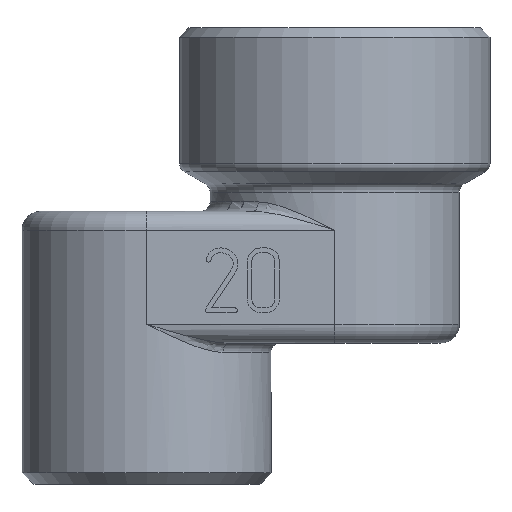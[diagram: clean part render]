
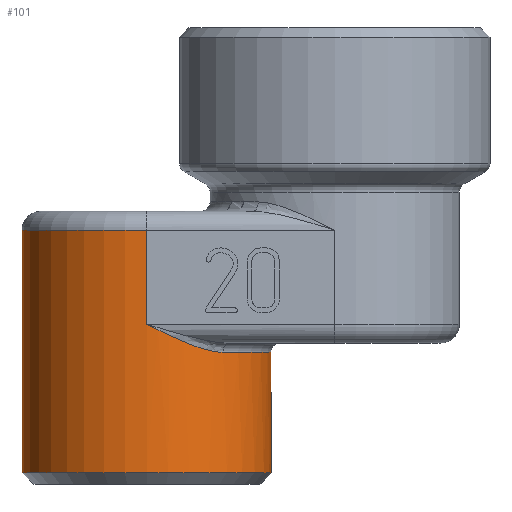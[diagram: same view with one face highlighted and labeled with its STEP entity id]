
A CAD part, left-side view. The second image highlights one B-rep face of the part: STEP entity #101.
In plain terms, the highlighted cylindrical face has radius 13.25 mm (diameter 26.5 mm), a full revolution.
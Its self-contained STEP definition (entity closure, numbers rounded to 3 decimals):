
#101=ADVANCED_FACE('',(#531,#533),#535,.T.);
#531=FACE_BOUND('',#532,.T.);
#532=EDGE_LOOP('',(#1972,#1973,#1974,#1975,#1976,#1977));
#533=FACE_OUTER_BOUND('',#534,.T.);
#534=EDGE_LOOP('',(#1978));
#535=CYLINDRICAL_SURFACE('',#536,13.25);
#536=AXIS2_PLACEMENT_3D('',#537,#538,#539);
#537=CARTESIAN_POINT('',(0.,0.,0.));
#538=DIRECTION('',(0.,0.,1.));
#539=DIRECTION('',(-1.,0.,0.));
#1972=ORIENTED_EDGE('',*,*,#2453,.F.);
#1973=ORIENTED_EDGE('',*,*,#2454,.F.);
#1974=ORIENTED_EDGE('',*,*,#2455,.F.);
#1975=ORIENTED_EDGE('',*,*,#2456,.F.);
#1976=ORIENTED_EDGE('',*,*,#2297,.T.);
#1977=ORIENTED_EDGE('',*,*,#2457,.F.);
#1978=ORIENTED_EDGE('',*,*,#2458,.T.);
#2297=EDGE_CURVE('',#2606,#2603,#2607,.T.);
#2453=EDGE_CURVE('',#2862,#2863,#2864,.T.);
#2454=EDGE_CURVE('',#2865,#2862,#2866,.T.);
#2455=EDGE_CURVE('',#2867,#2865,#2868,.T.);
#2456=EDGE_CURVE('',#2606,#2867,#2869,.F.);
#2457=EDGE_CURVE('',#2863,#2603,#2870,.T.);
#2458=EDGE_CURVE('',#2871,#2871,#2872,.T.);
#2603=VERTEX_POINT('',#3116);
#2606=VERTEX_POINT('',#3121);
#2607=LINE('',#3122,#3123);
#2862=VERTEX_POINT('',#3703);
#2863=VERTEX_POINT('',#3704);
#2864=LINE('',#3705,#3706);
#2865=VERTEX_POINT('',#3708);
#2866=B_SPLINE_CURVE_WITH_KNOTS('',3,
(#3709,#3710,#3711,#3712,#3713,#3714,#3715,#3716,#3717,#3718,#3719,#3720,#3721,#3722,
#3723,#3724),
.UNSPECIFIED.,.F.,.F.,
(4,1,1,1,1,1,1,1,1,1,1,1,1,4),
(0.,0.068,0.127,0.178,0.235,0.297,
0.364,0.449,0.544,0.645,0.736,
0.827,0.915,1.),
.UNSPECIFIED.);
#2867=VERTEX_POINT('',#3725);
#2868=CIRCLE('',#3726,13.25);
#2869=B_SPLINE_CURVE_WITH_KNOTS('',3,
(#3730,#3731,#3732,#3733,#3734,#3735,#3736,#3737,#3738,#3739,#3740,#3741,#3742,#3743,
#3744,#3745),
.UNSPECIFIED.,.F.,.F.,
(4,1,1,1,1,1,1,1,1,1,1,1,1,4),
(0.,0.068,0.127,0.178,0.235,0.297,
0.364,0.449,0.544,0.645,0.736,
0.827,0.915,1.),
.UNSPECIFIED.);
#2870=CIRCLE('',#3746,13.25);
#2871=VERTEX_POINT('',#3750);
#2872=CIRCLE('',#3751,13.25);
#3116=CARTESIAN_POINT('',(-13.25,0.,27.));
#3121=CARTESIAN_POINT('',(-13.25,0.,17.));
#3122=CARTESIAN_POINT('',(-13.25,0.,17.));
#3123=VECTOR('',#3124,1.);
#3124=DIRECTION('',(0.,0.,1.));
#3703=CARTESIAN_POINT('',(13.25,0.,17.));
#3704=CARTESIAN_POINT('',(13.25,0.,27.));
#3705=CARTESIAN_POINT('',(13.25,0.,17.));
#3706=VECTOR('',#3707,1.);
#3707=DIRECTION('',(0.,0.,1.));
#3708=CARTESIAN_POINT('',(10.461,-8.133,14.));
#3709=CARTESIAN_POINT('',(10.461,-8.133,14.));
#3710=CARTESIAN_POINT('',(10.593,-7.962,13.999));
#3711=CARTESIAN_POINT('',(10.832,-7.638,14.019));
#3712=CARTESIAN_POINT('',(11.143,-7.175,14.086));
#3713=CARTESIAN_POINT('',(11.414,-6.736,14.176));
#3714=CARTESIAN_POINT('',(11.669,-6.285,14.29));
#3715=CARTESIAN_POINT('',(11.925,-5.786,14.44));
#3716=CARTESIAN_POINT('',(12.19,-5.208,14.637));
#3717=CARTESIAN_POINT('',(12.457,-4.536,14.892));
#3718=CARTESIAN_POINT('',(12.713,-3.766,15.212));
#3719=CARTESIAN_POINT('',(12.92,-2.975,15.565));
#3720=CARTESIAN_POINT('',(13.075,-2.192,15.931));
#3721=CARTESIAN_POINT('',(13.178,-1.445,16.29));
#3722=CARTESIAN_POINT('',(13.237,-0.714,16.648));
#3723=CARTESIAN_POINT('',(13.25,-0.235,16.884));
#3724=CARTESIAN_POINT('',(13.25,0.,17.));
#3725=CARTESIAN_POINT('',(-10.461,-8.133,14.));
#3726=AXIS2_PLACEMENT_3D('',#3727,#3728,#3729);
#3727=CARTESIAN_POINT('',(0.,0.,14.));
#3728=DIRECTION('',(0.,0.,1.));
#3729=DIRECTION('',(-0.789,-0.614,0.));
#3730=CARTESIAN_POINT('',(-10.461,-8.133,14.));
#3731=CARTESIAN_POINT('',(-10.593,-7.962,13.999));
#3732=CARTESIAN_POINT('',(-10.832,-7.638,14.019));
#3733=CARTESIAN_POINT('',(-11.143,-7.175,14.086));
#3734=CARTESIAN_POINT('',(-11.414,-6.736,14.176));
#3735=CARTESIAN_POINT('',(-11.669,-6.285,14.29));
#3736=CARTESIAN_POINT('',(-11.925,-5.786,14.44));
#3737=CARTESIAN_POINT('',(-12.19,-5.208,14.637));
#3738=CARTESIAN_POINT('',(-12.457,-4.536,14.892));
#3739=CARTESIAN_POINT('',(-12.713,-3.766,15.212));
#3740=CARTESIAN_POINT('',(-12.92,-2.975,15.565));
#3741=CARTESIAN_POINT('',(-13.075,-2.192,15.931));
#3742=CARTESIAN_POINT('',(-13.178,-1.445,16.29));
#3743=CARTESIAN_POINT('',(-13.237,-0.714,16.648));
#3744=CARTESIAN_POINT('',(-13.25,-0.235,16.884));
#3745=CARTESIAN_POINT('',(-13.25,0.,17.));
#3746=AXIS2_PLACEMENT_3D('',#3747,#3748,#3749);
#3747=CARTESIAN_POINT('',(0.,0.,27.));
#3748=DIRECTION('',(0.,0.,1.));
#3749=DIRECTION('',(1.,0.,0.));
#3750=CARTESIAN_POINT('',(-13.25,0.,1.2));
#3751=AXIS2_PLACEMENT_3D('',#3752,#3753,#3754);
#3752=CARTESIAN_POINT('',(0.,0.,1.2));
#3753=DIRECTION('',(0.,0.,1.));
#3754=DIRECTION('',(-1.,0.,0.));
